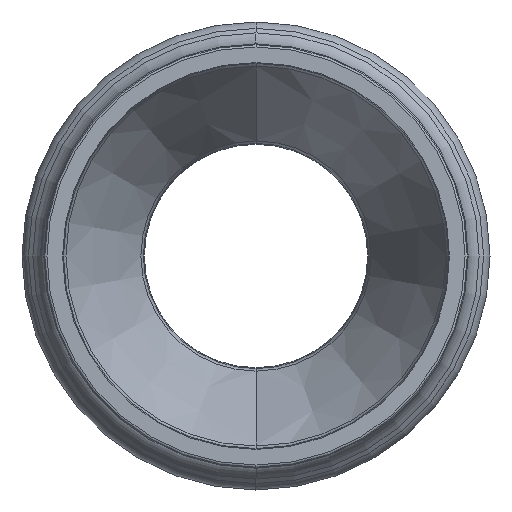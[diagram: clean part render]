
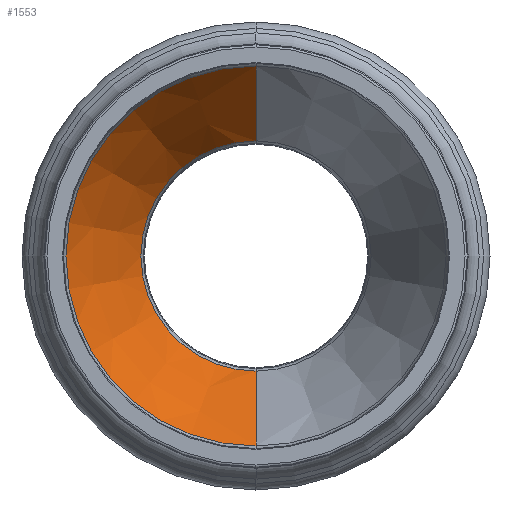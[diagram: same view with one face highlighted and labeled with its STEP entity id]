
A CAD part, left-side view. The second image highlights one B-rep face of the part: STEP entity #1553.
In plain terms, the highlighted conical face has half-angle 27 degrees and reference radius 24.633 mm.
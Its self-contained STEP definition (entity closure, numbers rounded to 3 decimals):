
#651=CARTESIAN_POINT('',(54.661,0.,0.));
#652=DIRECTION('',(1.,0.,0.));
#653=DIRECTION('',(0.,0.,-1.));
#654=AXIS2_PLACEMENT_3D('',#651,#652,#653);
#659=CARTESIAN_POINT('',(78.408,0.,0.));
#660=DIRECTION('',(-1.,0.,0.));
#661=DIRECTION('',(0.,0.,1.));
#662=AXIS2_PLACEMENT_3D('',#659,#660,#661);
#691=DIRECTION('',(-0.891,0.,0.454));
#692=VECTOR('',#691,26.652);
#693=CARTESIAN_POINT('',(78.408,0.,
18.583));
#694=LINE('',#693,#692);
#698=DIRECTION('',(-0.891,0.,-0.454));
#699=VECTOR('',#698,26.652);
#700=CARTESIAN_POINT('',(78.408,0.,
-18.583));
#701=LINE('',#700,#699);
#907=CARTESIAN_POINT('',(54.661,0.,
-30.682));
#909=VERTEX_POINT('',#907);
#913=CARTESIAN_POINT('',(54.661,0.,
30.682));
#914=VERTEX_POINT('',#913);
#915=CARTESIAN_POINT('',(78.408,0.,
-18.583));
#916=VERTEX_POINT('',#915);
#917=CARTESIAN_POINT('',(78.408,0.,
18.583));
#918=VERTEX_POINT('',#917);
#1539=CARTESIAN_POINT('',(66.535,0.,0.));
#1540=DIRECTION('',(-1.,0.,0.));
#1541=DIRECTION('',(0.,0.,1.));
#1542=AXIS2_PLACEMENT_3D('',#1539,#1540,#1541);
#1543=CONICAL_SURFACE('',#1542,24.632,27.);
#1545=ORIENTED_EDGE('',*,*,#1544,.T.);
#1547=ORIENTED_EDGE('',*,*,#1546,.T.);
#1548=ORIENTED_EDGE('',*,*,#1529,.T.);
#1550=ORIENTED_EDGE('',*,*,#1549,.F.);
#1551=EDGE_LOOP('',(#1545,#1547,#1548,#1550));
#1552=FACE_OUTER_BOUND('',#1551,.F.);
#655=CIRCLE('',#654,30.682);
#663=CIRCLE('',#662,18.583);
#1529=EDGE_CURVE('',#909,#914,#655,.T.);
#1544=EDGE_CURVE('',#918,#916,#663,.T.);
#1546=EDGE_CURVE('',#916,#909,#701,.T.);
#1549=EDGE_CURVE('',#918,#914,#694,.T.);
#1553=ADVANCED_FACE('',(#1552),#1543,.F.);
